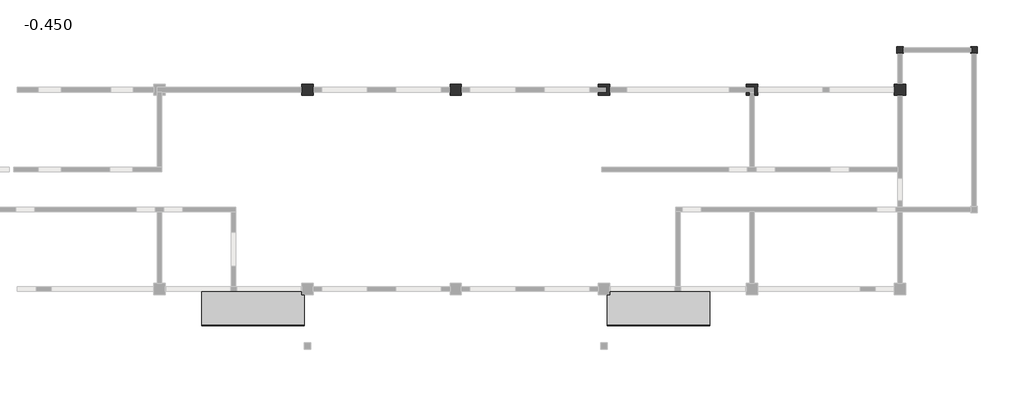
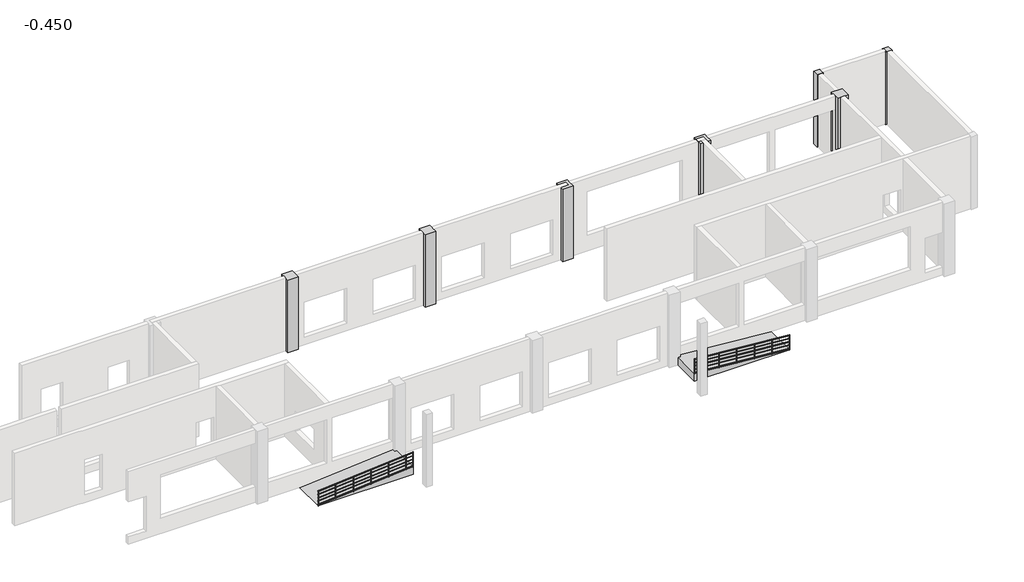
# One storey, part 2 of 2: 7 columns, 2 railings, 2 ramps.
"""IFC4 building model written with IfcOpenShell, lengths in millimetres."""

from ifc_helpers import new_model, si_unit, frame, origin, place, context, project, spatial, ellipse_curve, transform, mapped, element, save
from ifc_brep_helpers import plane_surface, cylinder_surface, advanced_brep
from components import z1_350mmx350mm_3cc50a67, z2_600mmx600mm_a56e41cd, z2_600mmx600mm_1a03ecea, ramp_fb5636dc, ramp_d582d0d9

model = new_model("IFC4")

# Units and contexts
model_context = context("Model", 3, world=origin())
ifc_project = project(units=[si_unit("LENGTHUNIT", "METRE", prefix="MILLI")], contexts=[model_context])

# Site, building, storey
site = spatial("IfcSite", under=ifc_project)
building = spatial("IfcBuilding", under=site)
storey = spatial("IfcBuildingStorey", under=building, Name="-0.450", Elevation=-450.0)

# Columns
placement = place(None, origin())
z1_350mmx350mm_shape = z1_350mmx350mm_3cc50a67(model_context)
element("IfcColumn", 1, ObjectType="混凝土 - 矩形 - 柱 : Z1-350mmX350mm", at=placement, inside=storey, context=model_context, shape_type="MappedRepresentation", body=[
    mapped(z1_350mmx350mm_shape, transform((47032.9890344, 7616.6095817, 0.0), x_axis=(-1.0, 0.0, 0.0), y_axis=(0.0, -1.0, 0.0), z_axis=(0.0, 0.0, 1.0))),
])
element("IfcColumn", 2, ObjectType="混凝土 - 矩形 - 柱 : Z1-350mmX350mm", at=placement, inside=storey, context=model_context, shape_type="MappedRepresentation", body=[
    mapped(z1_350mmx350mm_shape, transform((43132.9890344, 7616.6095817, 0.0), x_axis=(-1.0, 0.0, 0.0), y_axis=(0.0, -1.0, 0.0), z_axis=(0.0, 0.0, 1.0))),
])
z2_600mmx600mm_shape = z2_600mmx600mm_a56e41cd(model_context)
element("IfcColumn", 3, ObjectType="混凝土 - 矩形 - 柱 : Z2-600mmX600mm", at=placement, inside=storey, context=model_context, shape_type="MappedRepresentation", body=[
    mapped(z2_600mmx600mm_shape, transform((11932.9890344, 5516.6095817, 0.0), x_axis=(1.0, 0.0, 0.0), y_axis=(0.0, 1.0, 0.0), z_axis=(0.0, 0.0, 1.0))),
])
element("IfcColumn", 4, ObjectType="混凝土 - 矩形 - 柱 : Z2-600mmX600mm", at=placement, inside=storey, context=model_context, shape_type="MappedRepresentation", body=[
    mapped(z2_600mmx600mm_shape, transform((19732.9890344, 5516.6095817, 0.0), x_axis=(1.0, 0.0, 0.0), y_axis=(0.0, 1.0, 0.0), z_axis=(0.0, 0.0, 1.0))),
])
z2_600mmx600mm_2_shape = z2_600mmx600mm_1a03ecea(model_context)
element("IfcColumn", 5, ObjectType="混凝土 - 矩形 - 柱 : Z2-600mmX600mm", at=placement, inside=storey, context=model_context, shape_type="MappedRepresentation", body=[
    mapped(z2_600mmx600mm_2_shape, transform((43132.9890344, 5516.6095817, 0.0), x_axis=(-1.0, 0.0, 0.0), y_axis=(0.0, -1.0, 0.0), z_axis=(0.0, 0.0, 1.0))),
])
element("IfcColumn", 6, ObjectType="混凝土 - 矩形 - 柱 : Z2-600mmX600mm", at=placement, inside=storey, context=model_context, shape_type="MappedRepresentation", body=[
    mapped(z2_600mmx600mm_2_shape, transform((35332.9890344, 5516.6095817, 0.0), x_axis=(-1.0, 0.0, 0.0), y_axis=(0.0, -1.0, 0.0), z_axis=(0.0, 0.0, 1.0))),
])
element("IfcColumn", 7, ObjectType="混凝土 - 矩形 - 柱 : Z2-600mmX600mm", at=placement, inside=storey, context=model_context, shape_type="MappedRepresentation", body=[
    mapped(z2_600mmx600mm_2_shape, transform((27532.9890344, 5516.6095817, 0.0), x_axis=(-1.0, 0.0, 0.0), y_axis=(0.0, -1.0, 0.0), z_axis=(0.0, 0.0, 1.0))),
])

# Railings
element("IfcRailing", 8, ObjectType="900mm 圆管", at=placement, inside=storey, context=model_context, shape_type="AdvancedBrep", body=[
    advanced_brep(
    [(33111.3108536, -6883.3904183, 429.9306757), (33111.3108536, -6923.3904183, 429.9306757), (27711.3108536, -6883.3904183, 879.9306757), (27711.3108536, -6923.3904183, 879.9306757)],
    [
        (0, 1, ellipse_curve(frame((33111.3108536, -6903.3904183, 429.9306757), z_axis=(1.0, 0.0, 0.0), x_axis=(0.0, 0.0, -1.0)), 20.0693243, 20.0)),
        (1, 0, ellipse_curve(frame((33111.3108536, -6903.3904183, 429.9306757), z_axis=(1.0, 0.0, 0.0), x_axis=(0.0, 0.0, -1.0)), 20.0693243, 20.0)),
        (2, 3, ellipse_curve(frame((27711.3108536, -6903.3904183, 879.9306757), z_axis=(-1.0, 0.0, 0.0), x_axis=(0.0, 0.0, -1.0)), 20.0693243, 20.0)),
        (3, 2, ellipse_curve(frame((27711.3108536, -6903.3904183, 879.9306757), z_axis=(-1.0, 0.0, 0.0), x_axis=(0.0, 0.0, -1.0)), 20.0693243, 20.0)),
        (0, 2),
        (3, 1),
    ],
    [
        plane_surface(frame((33111.3108536, -6903.3904183, 450.0), z_axis=(1.0, 0.0, 0.0), x_axis=(0.0, -1.0, 0.0))),
        plane_surface(frame((27711.3108536, -6903.3904183, 900.0), z_axis=(-1.0, 0.0, 0.0), x_axis=(0.0, -1.0, 0.0))),
        cylinder_surface(frame((33109.649944, -6903.3904183, 430.0690848), z_axis=(0.9965457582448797, 0.0, -0.08304547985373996), x_axis=(0.0, -1.0, 0.0)), 20.0),
    ],
    [
        (0, [[1, 2]]),
        (1, [[3, 4]]),
        (2, [[-1, 5, -4, 6]]),
        (2, [[-2, -6, -3, -5]]),
    ],
),
    advanced_brep(
    [(33111.3108536, -6918.3904183, 234.9480068), (33111.3108536, -6888.3904183, 234.9480068), (27711.3108536, -6918.3904183, 684.9480068), (27711.3108536, -6888.3904183, 684.9480068)],
    [
        (0, 1, ellipse_curve(frame((33111.3108536, -6903.3904183, 234.9480068), z_axis=(1.0, 0.0, 0.0), x_axis=(0.0, 0.0, -1.0)), 15.0519932, 15.0)),
        (1, 0, ellipse_curve(frame((33111.3108536, -6903.3904183, 234.9480068), z_axis=(1.0, 0.0, 0.0), x_axis=(0.0, 0.0, -1.0)), 15.0519932, 15.0)),
        (2, 3, ellipse_curve(frame((27711.3108536, -6903.3904183, 684.9480068), z_axis=(-1.0, 0.0, 0.0), x_axis=(0.0, 0.0, -1.0)), 15.0519932, 15.0)),
        (3, 2, ellipse_curve(frame((27711.3108536, -6903.3904183, 684.9480068), z_axis=(-1.0, 0.0, 0.0), x_axis=(0.0, 0.0, -1.0)), 15.0519932, 15.0)),
        (0, 2),
        (3, 1),
    ],
    [
        plane_surface(frame((33111.3108536, -6903.3904183, 250.0), z_axis=(1.0, 0.0, 0.0), x_axis=(0.0, -1.0, 0.0))),
        plane_surface(frame((27711.3108536, -6903.3904183, 700.0), z_axis=(-1.0, 0.0, 0.0), x_axis=(0.0, -1.0, 0.0))),
        cylinder_surface(frame((33110.0651714, -6903.3904183, 235.0518136), z_axis=(0.9965457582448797, 0.0, -0.08304547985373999), x_axis=(0.0, 1.0, 0.0)), 15.0),
    ],
    [
        (0, [[1, 2]]),
        (1, [[3, 4]]),
        (2, [[-1, 5, -4, 6]]),
        (2, [[-2, -6, -3, -5]]),
    ],
),
    advanced_brep(
    [(33111.3108536, -6918.3904183, 34.9480068), (33111.3108536, -6888.3904183, 34.9480068), (27711.3108536, -6918.3904183, 484.9480068), (27711.3108536, -6888.3904183, 484.9480068)],
    [
        (0, 1, ellipse_curve(frame((33111.3108536, -6903.3904183, 34.9480068), z_axis=(1.0, 0.0, 0.0), x_axis=(0.0, 0.0, -0.9999999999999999)), 15.0519932, 15.0)),
        (1, 0, ellipse_curve(frame((33111.3108536, -6903.3904183, 34.9480068), z_axis=(1.0, 0.0, 0.0), x_axis=(0.0, 0.0, -0.9999999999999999)), 15.0519932, 15.0)),
        (2, 3, ellipse_curve(frame((27711.3108536, -6903.3904183, 484.9480068), z_axis=(-1.0, 0.0, 0.0), x_axis=(0.0, 0.0, -0.9999999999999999)), 15.0519932, 15.0)),
        (3, 2, ellipse_curve(frame((27711.3108536, -6903.3904183, 484.9480068), z_axis=(-1.0, 0.0, 0.0), x_axis=(0.0, 0.0, -0.9999999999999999)), 15.0519932, 15.0)),
        (0, 2),
        (3, 1),
    ],
    [
        plane_surface(frame((33111.3108536, -6903.3904183, 50.0), z_axis=(1.0, 0.0, 0.0), x_axis=(0.0, -1.0, 0.0))),
        plane_surface(frame((27711.3108536, -6903.3904183, 500.0), z_axis=(-1.0, 0.0, 0.0), x_axis=(0.0, -1.0, 0.0))),
        cylinder_surface(frame((33110.0651714, -6903.3904183, 35.0518136), z_axis=(0.9965457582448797, 0.0, -0.08304547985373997), x_axis=(0.0, 1.0, 0.0)), 15.0),
    ],
    [
        (0, [[1, 2]]),
        (1, [[3, 4]]),
        (2, [[-1, 5, -4, 6]]),
        (2, [[-2, -6, -3, -5]]),
    ],
),
    advanced_brep(
    [(33111.3108536, -6918.3904183, -165.0519932), (33111.3108536, -6888.3904183, -165.0519932), (27711.3108536, -6918.3904183, 284.9480068), (27711.3108536, -6888.3904183, 284.9480068)],
    [
        (0, 1, ellipse_curve(frame((33111.3108536, -6903.3904183, -165.0519932), z_axis=(1.0, 0.0, 0.0), x_axis=(0.0, 0.0, -0.9999999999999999)), 15.0519932, 15.0)),
        (1, 0, ellipse_curve(frame((33111.3108536, -6903.3904183, -165.0519932), z_axis=(1.0, 0.0, 0.0), x_axis=(0.0, 0.0, -0.9999999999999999)), 15.0519932, 15.0)),
        (2, 3, ellipse_curve(frame((27711.3108536, -6903.3904183, 284.9480068), z_axis=(-1.0, 0.0, 0.0), x_axis=(0.0, 0.0, -0.9999999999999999)), 15.0519932, 15.0)),
        (3, 2, ellipse_curve(frame((27711.3108536, -6903.3904183, 284.9480068), z_axis=(-1.0, 0.0, 0.0), x_axis=(0.0, 0.0, -0.9999999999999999)), 15.0519932, 15.0)),
        (0, 2),
        (3, 1),
    ],
    [
        plane_surface(frame((33111.3108536, -6903.3904183, -150.0), z_axis=(1.0, 0.0, 0.0), x_axis=(0.0, -1.0, 0.0))),
        plane_surface(frame((27711.3108536, -6903.3904183, 300.0), z_axis=(-1.0, 0.0, 0.0), x_axis=(0.0, -1.0, 0.0))),
        cylinder_surface(frame((33110.0651714, -6903.3904183, -164.9481864), z_axis=(0.9965457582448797, 0.0, -0.08304547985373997), x_axis=(0.0, 1.0, 0.0)), 15.0),
    ],
    [
        (0, [[1, 2]]),
        (1, [[3, 4]]),
        (2, [[-1, 5, -4, 6]]),
        (2, [[-2, -6, -3, -5]]),
    ],
),
    advanced_brep(
    [(33111.3108536, -6918.3904183, -365.0519932), (33111.3108536, -6888.3904183, -365.0519932), (27711.3108536, -6918.3904183, 84.9480068), (27711.3108536, -6888.3904183, 84.9480068)],
    [
        (0, 1, ellipse_curve(frame((33111.3108536, -6903.3904183, -365.0519932), z_axis=(1.0, 0.0, 0.0), x_axis=(0.0, 0.0, -0.9999999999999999)), 15.0519932, 15.0)),
        (1, 0, ellipse_curve(frame((33111.3108536, -6903.3904183, -365.0519932), z_axis=(1.0, 0.0, 0.0), x_axis=(0.0, 0.0, -0.9999999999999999)), 15.0519932, 15.0)),
        (2, 3, ellipse_curve(frame((27711.3108536, -6903.3904183, 84.9480068), z_axis=(-1.0, 0.0, 0.0), x_axis=(0.0, 0.0, -0.9999999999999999)), 15.0519932, 15.0)),
        (3, 2, ellipse_curve(frame((27711.3108536, -6903.3904183, 84.9480068), z_axis=(-1.0, 0.0, 0.0), x_axis=(0.0, 0.0, -0.9999999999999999)), 15.0519932, 15.0)),
        (0, 2),
        (3, 1),
    ],
    [
        plane_surface(frame((33111.3108536, -6903.3904183, -350.0), z_axis=(1.0, 0.0, 0.0), x_axis=(0.0, -1.0, 0.0))),
        plane_surface(frame((27711.3108536, -6903.3904183, 100.0), z_axis=(-1.0, 0.0, 0.0), x_axis=(0.0, -1.0, 0.0))),
        cylinder_surface(frame((33110.0651714, -6903.3904183, -364.9481864), z_axis=(0.9965457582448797, 0.0, -0.08304547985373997), x_axis=(0.0, 1.0, 0.0)), 15.0),
    ],
    [
        (0, [[1, 2]]),
        (1, [[3, 4]]),
        (2, [[-1, 5, -4, 6]]),
        (2, [[-2, -6, -3, -5]]),
    ],
),
    advanced_brep(
    [(28111.3108536, -6890.8904183, 826.5280181), (28111.3108536, -6890.8904183, -33.3333333), (28111.3108536, -6915.8904183, -33.3333333), (28111.3108536, -6915.8904183, 826.5280181)],
    [
        (0, 1),
        (1, 2, ellipse_curve(frame((28111.3108536, -6903.3904183, -33.3333333), z_axis=(0.08304547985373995, 0.0, 0.9965457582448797), x_axis=(-0.9965457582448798, 0.0, 0.08304547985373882)), 12.5433277, 12.5)),
        (2, 3),
        (3, 0, ellipse_curve(frame((28111.3108536, -6903.3904183, 826.5280181), z_axis=(-0.08304547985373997, 0.0, -0.9965457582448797), x_axis=(-0.9965457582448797, 0.0, 0.0830454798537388)), 12.5433277, 12.5)),
        (0, 3, ellipse_curve(frame((28111.3108536, -6903.3904183, 826.5280181), z_axis=(-0.08304547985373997, 0.0, -0.9965457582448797), x_axis=(-0.9965457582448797, 0.0, 0.0830454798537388)), 12.5433277, 12.5)),
        (2, 1, ellipse_curve(frame((28111.3108536, -6903.3904183, -33.3333333), z_axis=(0.08304547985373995, 0.0, 0.9965457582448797), x_axis=(-0.9965457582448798, 0.0, 0.08304547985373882)), 12.5433277, 12.5)),
    ],
    [
        cylinder_surface(frame((28111.3108536, -6903.3904183, -133.3333333), z_axis=(0.0, 0.0, 1.0), x_axis=(0.0, -1.0, 0.0)), 12.5),
        plane_surface(frame((28086.3108536, -6928.3904183, 828.6113514), z_axis=(0.08304547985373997, 0.0, 0.9965457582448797), x_axis=(0.0, 1.0, 0.0))),
        plane_surface(frame((28136.3108536, -6928.3904183, -35.4166667), z_axis=(-0.08304547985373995, 0.0, -0.9965457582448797), x_axis=(0.0, 1.0, 0.0))),
    ],
    [
        (0, [[1, 2, 3, 4]]),
        (0, [[-1, 5, -3, 6]]),
        (1, [[-4, -5]]),
        (2, [[-2, -6]]),
    ],
),
    advanced_brep(
    [(29111.3108536, -6890.8904183, 743.1946847), (29111.3108536, -6890.8904183, -116.6666667), (29111.3108536, -6915.8904183, -116.6666667), (29111.3108536, -6915.8904183, 743.1946847)],
    [
        (0, 1),
        (1, 2, ellipse_curve(frame((29111.3108536, -6903.3904183, -116.6666667), z_axis=(0.08304547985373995, 0.0, 0.9965457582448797), x_axis=(-0.9965457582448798, 0.0, 0.08304547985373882)), 12.5433277, 12.5)),
        (2, 3),
        (3, 0, ellipse_curve(frame((29111.3108536, -6903.3904183, 743.1946847), z_axis=(-0.08304547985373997, 0.0, -0.9965457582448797), x_axis=(-0.9965457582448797, 0.0, 0.0830454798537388)), 12.5433277, 12.5)),
        (0, 3, ellipse_curve(frame((29111.3108536, -6903.3904183, 743.1946847), z_axis=(-0.08304547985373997, 0.0, -0.9965457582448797), x_axis=(-0.9965457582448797, 0.0, 0.0830454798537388)), 12.5433277, 12.5)),
        (2, 1, ellipse_curve(frame((29111.3108536, -6903.3904183, -116.6666667), z_axis=(0.08304547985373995, 0.0, 0.9965457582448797), x_axis=(-0.9965457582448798, 0.0, 0.08304547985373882)), 12.5433277, 12.5)),
    ],
    [
        cylinder_surface(frame((29111.3108536, -6903.3904183, -216.6666667), z_axis=(0.0, 0.0, 1.0), x_axis=(0.0, -1.0, 0.0)), 12.5),
        plane_surface(frame((29086.3108536, -6928.3904183, 745.2780181), z_axis=(0.08304547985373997, 0.0, 0.9965457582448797), x_axis=(0.0, 1.0, 0.0))),
        plane_surface(frame((29136.3108536, -6928.3904183, -118.75), z_axis=(-0.08304547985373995, 0.0, -0.9965457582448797), x_axis=(0.0, 1.0, 0.0))),
    ],
    [
        (0, [[1, 2, 3, 4]]),
        (0, [[-1, 5, -3, 6]]),
        (1, [[-4, -5]]),
        (2, [[-2, -6]]),
    ],
),
    advanced_brep(
    [(30111.3108536, -6890.8904183, 659.8613514), (30111.3108536, -6890.8904183, -200.0), (30111.3108536, -6915.8904183, -200.0), (30111.3108536, -6915.8904183, 659.8613514)],
    [
        (0, 1),
        (1, 2, ellipse_curve(frame((30111.3108536, -6903.3904183, -200.0), z_axis=(0.08304547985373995, 0.0, 0.9965457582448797), x_axis=(-0.9965457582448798, 0.0, 0.08304547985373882)), 12.5433277, 12.5)),
        (2, 3),
        (3, 0, ellipse_curve(frame((30111.3108536, -6903.3904183, 659.8613514), z_axis=(-0.08304547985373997, 0.0, -0.9965457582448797), x_axis=(-0.9965457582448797, 0.0, 0.0830454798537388)), 12.5433277, 12.5)),
        (0, 3, ellipse_curve(frame((30111.3108536, -6903.3904183, 659.8613514), z_axis=(-0.08304547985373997, 0.0, -0.9965457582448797), x_axis=(-0.9965457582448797, 0.0, 0.0830454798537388)), 12.5433277, 12.5)),
        (2, 1, ellipse_curve(frame((30111.3108536, -6903.3904183, -200.0), z_axis=(0.08304547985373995, 0.0, 0.9965457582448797), x_axis=(-0.9965457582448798, 0.0, 0.08304547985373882)), 12.5433277, 12.5)),
    ],
    [
        cylinder_surface(frame((30111.3108536, -6903.3904183, -300.0), z_axis=(0.0, 0.0, 1.0), x_axis=(0.0, -1.0, 0.0)), 12.5),
        plane_surface(frame((30086.3108536, -6928.3904183, 661.9446847), z_axis=(0.08304547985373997, 0.0, 0.9965457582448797), x_axis=(0.0, 1.0, 0.0))),
        plane_surface(frame((30136.3108536, -6928.3904183, -202.0833333), z_axis=(-0.08304547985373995, 0.0, -0.9965457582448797), x_axis=(0.0, 1.0, 0.0))),
    ],
    [
        (0, [[1, 2, 3, 4]]),
        (0, [[-1, 5, -3, 6]]),
        (1, [[-4, -5]]),
        (2, [[-2, -6]]),
    ],
),
    advanced_brep(
    [(31111.3108536, -6890.8904183, 576.5280181), (31111.3108536, -6890.8904183, -283.3333333), (31111.3108536, -6915.8904183, -283.3333333), (31111.3108536, -6915.8904183, 576.5280181)],
    [
        (0, 1),
        (1, 2, ellipse_curve(frame((31111.3108536, -6903.3904183, -283.3333333), z_axis=(0.08304547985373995, 0.0, 0.9965457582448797), x_axis=(-0.9965457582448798, 0.0, 0.08304547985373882)), 12.5433277, 12.5)),
        (2, 3),
        (3, 0, ellipse_curve(frame((31111.3108536, -6903.3904183, 576.5280181), z_axis=(-0.08304547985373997, 0.0, -0.9965457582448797), x_axis=(-0.9965457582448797, 0.0, 0.0830454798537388)), 12.5433277, 12.5)),
        (0, 3, ellipse_curve(frame((31111.3108536, -6903.3904183, 576.5280181), z_axis=(-0.08304547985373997, 0.0, -0.9965457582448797), x_axis=(-0.9965457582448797, 0.0, 0.0830454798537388)), 12.5433277, 12.5)),
        (2, 1, ellipse_curve(frame((31111.3108536, -6903.3904183, -283.3333333), z_axis=(0.08304547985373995, 0.0, 0.9965457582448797), x_axis=(-0.9965457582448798, 0.0, 0.08304547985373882)), 12.5433277, 12.5)),
    ],
    [
        cylinder_surface(frame((31111.3108536, -6903.3904183, -383.3333333), z_axis=(0.0, 0.0, 1.0), x_axis=(0.0, -1.0, 0.0)), 12.5),
        plane_surface(frame((31086.3108536, -6928.3904183, 578.6113514), z_axis=(0.08304547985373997, 0.0, 0.9965457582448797), x_axis=(0.0, 1.0, 0.0))),
        plane_surface(frame((31136.3108536, -6928.3904183, -285.4166667), z_axis=(-0.08304547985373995, 0.0, -0.9965457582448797), x_axis=(0.0, 1.0, 0.0))),
    ],
    [
        (0, [[1, 2, 3, 4]]),
        (0, [[-1, 5, -3, 6]]),
        (1, [[-4, -5]]),
        (2, [[-2, -6]]),
    ],
),
    advanced_brep(
    [(32111.3108536, -6890.8904183, 493.1946847), (32111.3108536, -6890.8904183, -366.6666667), (32111.3108536, -6915.8904183, -366.6666667), (32111.3108536, -6915.8904183, 493.1946847)],
    [
        (0, 1),
        (1, 2, ellipse_curve(frame((32111.3108536, -6903.3904183, -366.6666667), z_axis=(0.08304547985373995, 0.0, 0.9965457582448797), x_axis=(-0.9965457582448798, 0.0, 0.08304547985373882)), 12.5433277, 12.5)),
        (2, 3),
        (3, 0, ellipse_curve(frame((32111.3108536, -6903.3904183, 493.1946847), z_axis=(-0.08304547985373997, 0.0, -0.9965457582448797), x_axis=(-0.9965457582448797, 0.0, 0.0830454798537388)), 12.5433277, 12.5)),
        (0, 3, ellipse_curve(frame((32111.3108536, -6903.3904183, 493.1946847), z_axis=(-0.08304547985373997, 0.0, -0.9965457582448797), x_axis=(-0.9965457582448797, 0.0, 0.0830454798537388)), 12.5433277, 12.5)),
        (2, 1, ellipse_curve(frame((32111.3108536, -6903.3904183, -366.6666667), z_axis=(0.08304547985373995, 0.0, 0.9965457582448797), x_axis=(-0.9965457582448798, 0.0, 0.08304547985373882)), 12.5433277, 12.5)),
    ],
    [
        cylinder_surface(frame((32111.3108536, -6903.3904183, -466.6666667), z_axis=(0.0, 0.0, 1.0), x_axis=(0.0, -1.0, 0.0)), 12.5),
        plane_surface(frame((32086.3108536, -6928.3904183, 495.2780181), z_axis=(0.08304547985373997, 0.0, 0.9965457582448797), x_axis=(0.0, 1.0, 0.0))),
        plane_surface(frame((32136.3108536, -6928.3904183, -368.75), z_axis=(-0.08304547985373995, 0.0, -0.9965457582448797), x_axis=(0.0, 1.0, 0.0))),
    ],
    [
        (0, [[1, 2, 3, 4]]),
        (0, [[-1, 5, -3, 6]]),
        (1, [[-4, -5]]),
        (2, [[-2, -6]]),
    ],
),
    advanced_brep(
    [(27723.8108536, -6890.8904183, 858.8196847), (27723.8108536, -6890.8904183, -1.0416667), (27723.8108536, -6915.8904183, -1.0416667), (27723.8108536, -6915.8904183, 858.8196847)],
    [
        (0, 1),
        (1, 2, ellipse_curve(frame((27723.8108536, -6903.3904183, -1.0416667), z_axis=(0.08304547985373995, 0.0, 0.9965457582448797), x_axis=(-0.9965457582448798, 0.0, 0.08304547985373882)), 12.5433277, 12.5)),
        (2, 3),
        (3, 0, ellipse_curve(frame((27723.8108536, -6903.3904183, 858.8196847), z_axis=(-0.08304547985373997, 0.0, -0.9965457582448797), x_axis=(-0.9965457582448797, 0.0, 0.0830454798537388)), 12.5433277, 12.5)),
        (0, 3, ellipse_curve(frame((27723.8108536, -6903.3904183, 858.8196847), z_axis=(-0.08304547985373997, 0.0, -0.9965457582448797), x_axis=(-0.9965457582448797, 0.0, 0.0830454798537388)), 12.5433277, 12.5)),
        (2, 1, ellipse_curve(frame((27723.8108536, -6903.3904183, -1.0416667), z_axis=(0.08304547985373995, 0.0, 0.9965457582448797), x_axis=(-0.9965457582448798, 0.0, 0.08304547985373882)), 12.5433277, 12.5)),
    ],
    [
        cylinder_surface(frame((27723.8108536, -6903.3904183, -101.0416667), z_axis=(0.0, 0.0, 1.0), x_axis=(0.0, -1.0, 0.0)), 12.5),
        plane_surface(frame((27698.8108536, -6928.3904183, 860.9030181), z_axis=(0.08304547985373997, 0.0, 0.9965457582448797), x_axis=(0.0, 1.0, 0.0))),
        plane_surface(frame((27748.8108536, -6928.3904183, -3.125), z_axis=(-0.08304547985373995, 0.0, -0.9965457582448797), x_axis=(0.0, 1.0, 0.0))),
    ],
    [
        (0, [[1, 2, 3, 4]]),
        (0, [[-1, 5, -3, 6]]),
        (1, [[-4, -5]]),
        (2, [[-2, -6]]),
    ],
),
    advanced_brep(
    [(33098.8108536, -6890.8904183, 410.9030181), (33098.8108536, -6890.8904183, -448.9583333), (33098.8108536, -6915.8904183, -448.9583333), (33098.8108536, -6915.8904183, 410.9030181)],
    [
        (0, 1),
        (1, 2, ellipse_curve(frame((33098.8108536, -6903.3904183, -448.9583333), z_axis=(0.08304547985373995, 0.0, 0.9965457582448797), x_axis=(-0.9965457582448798, 0.0, 0.08304547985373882)), 12.5433277, 12.5)),
        (2, 3),
        (3, 0, ellipse_curve(frame((33098.8108536, -6903.3904183, 410.9030181), z_axis=(-0.08304547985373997, 0.0, -0.9965457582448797), x_axis=(-0.9965457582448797, 0.0, 0.0830454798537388)), 12.5433277, 12.5)),
        (0, 3, ellipse_curve(frame((33098.8108536, -6903.3904183, 410.9030181), z_axis=(-0.08304547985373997, 0.0, -0.9965457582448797), x_axis=(-0.9965457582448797, 0.0, 0.0830454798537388)), 12.5433277, 12.5)),
        (2, 1, ellipse_curve(frame((33098.8108536, -6903.3904183, -448.9583333), z_axis=(0.08304547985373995, 0.0, 0.9965457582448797), x_axis=(-0.9965457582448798, 0.0, 0.08304547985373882)), 12.5433277, 12.5)),
    ],
    [
        cylinder_surface(frame((33098.8108536, -6903.3904183, -548.9583333), z_axis=(0.0, 0.0, 1.0), x_axis=(0.0, -1.0, 0.0)), 12.5),
        plane_surface(frame((33073.8108536, -6928.3904183, 412.9863514), z_axis=(0.08304547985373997, 0.0, 0.9965457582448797), x_axis=(0.0, 1.0, 0.0))),
        plane_surface(frame((33123.8108536, -6928.3904183, -451.0416667), z_axis=(-0.08304547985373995, 0.0, -0.9965457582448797), x_axis=(0.0, 1.0, 0.0))),
    ],
    [
        (0, [[1, 2, 3, 4]]),
        (0, [[-1, 5, -3, 6]]),
        (1, [[-4, -5]]),
        (2, [[-2, -6]]),
    ],
),
])
element("IfcRailing", 9, ObjectType="900mm 圆管", at=placement, inside=storey, context=model_context, shape_type="AdvancedBrep", body=[
    advanced_brep(
    [(6354.6672152, -6923.3904183, 429.9306757), (6354.6672152, -6883.3904183, 429.9306757), (11754.6672152, -6923.3904183, 879.9306757), (11754.6672152, -6883.3904183, 879.9306757)],
    [
        (0, 1, ellipse_curve(frame((6354.6672152, -6903.3904183, 429.9306757), z_axis=(-1.0, 0.0, 0.0), x_axis=(0.0, 0.0, -1.0)), 20.0693243, 20.0)),
        (1, 0, ellipse_curve(frame((6354.6672152, -6903.3904183, 429.9306757), z_axis=(-1.0, 0.0, 0.0), x_axis=(0.0, 0.0, -1.0)), 20.0693243, 20.0)),
        (2, 3, ellipse_curve(frame((11754.6672152, -6903.3904183, 879.9306757), z_axis=(1.0, 0.0, 0.0), x_axis=(0.0, 0.0, -1.0)), 20.0693243, 20.0)),
        (3, 2, ellipse_curve(frame((11754.6672152, -6903.3904183, 879.9306757), z_axis=(1.0, 0.0, 0.0), x_axis=(0.0, 0.0, -1.0)), 20.0693243, 20.0)),
        (0, 2),
        (3, 1),
    ],
    [
        plane_surface(frame((6354.6672152, -6903.3904183, 450.0), z_axis=(-1.0, 0.0, 0.0), x_axis=(0.0, 1.0, 0.0))),
        plane_surface(frame((11754.6672152, -6903.3904183, 900.0), z_axis=(1.0, 0.0, 0.0), x_axis=(0.0, 1.0, 0.0))),
        cylinder_surface(frame((6356.3281248, -6903.3904183, 430.0690848), z_axis=(-0.9965457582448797, 0.0, -0.08304547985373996), x_axis=(0.0, 1.0, 0.0)), 20.0),
    ],
    [
        (0, [[1, 2]]),
        (1, [[3, 4]]),
        (2, [[-1, 5, -4, 6]]),
        (2, [[-2, -6, -3, -5]]),
    ],
),
    advanced_brep(
    [(6354.6672152, -6918.3904183, 234.9480068), (6354.6672152, -6888.3904183, 234.9480068), (11754.6672152, -6918.3904183, 684.9480068), (11754.6672152, -6888.3904183, 684.9480068)],
    [
        (0, 1, ellipse_curve(frame((6354.6672152, -6903.3904183, 234.9480068), z_axis=(-1.0, 0.0, 0.0), x_axis=(0.0, 0.0, -1.0)), 15.0519932, 15.0)),
        (1, 0, ellipse_curve(frame((6354.6672152, -6903.3904183, 234.9480068), z_axis=(-1.0, 0.0, 0.0), x_axis=(0.0, 0.0, -1.0)), 15.0519932, 15.0)),
        (2, 3, ellipse_curve(frame((11754.6672152, -6903.3904183, 684.9480068), z_axis=(1.0, 0.0, 0.0), x_axis=(0.0, 0.0, -1.0)), 15.0519932, 15.0)),
        (3, 2, ellipse_curve(frame((11754.6672152, -6903.3904183, 684.9480068), z_axis=(1.0, 0.0, 0.0), x_axis=(0.0, 0.0, -1.0)), 15.0519932, 15.0)),
        (1, 3),
        (2, 0),
    ],
    [
        plane_surface(frame((6354.6672152, -6903.3904183, 250.0), z_axis=(-1.0, 0.0, 0.0), x_axis=(0.0, 1.0, 0.0))),
        plane_surface(frame((11754.6672152, -6903.3904183, 700.0), z_axis=(1.0, 0.0, 0.0), x_axis=(0.0, 1.0, 0.0))),
        cylinder_surface(frame((6355.9128974, -6903.3904183, 235.0518136), z_axis=(-0.9965457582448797, 0.0, -0.08304547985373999), x_axis=(0.0, 1.0, 0.0)), 15.0),
    ],
    [
        (0, [[1, 2]]),
        (1, [[3, 4]]),
        (2, [[-2, 5, -3, 6]]),
        (2, [[-1, -6, -4, -5]]),
    ],
),
    advanced_brep(
    [(6354.6672152, -6918.3904183, 34.9480068), (6354.6672152, -6888.3904183, 34.9480068), (11754.6672152, -6918.3904183, 484.9480068), (11754.6672152, -6888.3904183, 484.9480068)],
    [
        (0, 1, ellipse_curve(frame((6354.6672152, -6903.3904183, 34.9480068), z_axis=(-1.0, 0.0, 0.0), x_axis=(0.0, 0.0, -0.9999999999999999)), 15.0519932, 15.0)),
        (1, 0, ellipse_curve(frame((6354.6672152, -6903.3904183, 34.9480068), z_axis=(-1.0, 0.0, 0.0), x_axis=(0.0, 0.0, -0.9999999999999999)), 15.0519932, 15.0)),
        (2, 3, ellipse_curve(frame((11754.6672152, -6903.3904183, 484.9480068), z_axis=(1.0, 0.0, 0.0), x_axis=(0.0, 0.0, -0.9999999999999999)), 15.0519932, 15.0)),
        (3, 2, ellipse_curve(frame((11754.6672152, -6903.3904183, 484.9480068), z_axis=(1.0, 0.0, 0.0), x_axis=(0.0, 0.0, -0.9999999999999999)), 15.0519932, 15.0)),
        (1, 3),
        (2, 0),
    ],
    [
        plane_surface(frame((6354.6672152, -6903.3904183, 50.0), z_axis=(-1.0, 0.0, 0.0), x_axis=(0.0, 1.0, 0.0))),
        plane_surface(frame((11754.6672152, -6903.3904183, 500.0), z_axis=(1.0, 0.0, 0.0), x_axis=(0.0, 1.0, 0.0))),
        cylinder_surface(frame((6355.9128974, -6903.3904183, 35.0518136), z_axis=(-0.9965457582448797, 0.0, -0.08304547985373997), x_axis=(0.0, 1.0, 0.0)), 15.0),
    ],
    [
        (0, [[1, 2]]),
        (1, [[3, 4]]),
        (2, [[-2, 5, -3, 6]]),
        (2, [[-1, -6, -4, -5]]),
    ],
),
    advanced_brep(
    [(6354.6672152, -6918.3904183, -165.0519932), (6354.6672152, -6888.3904183, -165.0519932), (11754.6672152, -6918.3904183, 284.9480068), (11754.6672152, -6888.3904183, 284.9480068)],
    [
        (0, 1, ellipse_curve(frame((6354.6672152, -6903.3904183, -165.0519932), z_axis=(-1.0, 0.0, 0.0), x_axis=(0.0, 0.0, -0.9999999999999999)), 15.0519932, 15.0)),
        (1, 0, ellipse_curve(frame((6354.6672152, -6903.3904183, -165.0519932), z_axis=(-1.0, 0.0, 0.0), x_axis=(0.0, 0.0, -0.9999999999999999)), 15.0519932, 15.0)),
        (2, 3, ellipse_curve(frame((11754.6672152, -6903.3904183, 284.9480068), z_axis=(1.0, 0.0, 0.0), x_axis=(0.0, 0.0, -0.9999999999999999)), 15.0519932, 15.0)),
        (3, 2, ellipse_curve(frame((11754.6672152, -6903.3904183, 284.9480068), z_axis=(1.0, 0.0, 0.0), x_axis=(0.0, 0.0, -0.9999999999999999)), 15.0519932, 15.0)),
        (1, 3),
        (2, 0),
    ],
    [
        plane_surface(frame((6354.6672152, -6903.3904183, -150.0), z_axis=(-1.0, 0.0, 0.0), x_axis=(0.0, 1.0, 0.0))),
        plane_surface(frame((11754.6672152, -6903.3904183, 300.0), z_axis=(1.0, 0.0, 0.0), x_axis=(0.0, 1.0, 0.0))),
        cylinder_surface(frame((6355.9128974, -6903.3904183, -164.9481864), z_axis=(-0.9965457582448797, 0.0, -0.08304547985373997), x_axis=(0.0, 1.0, 0.0)), 15.0),
    ],
    [
        (0, [[1, 2]]),
        (1, [[3, 4]]),
        (2, [[-2, 5, -3, 6]]),
        (2, [[-1, -6, -4, -5]]),
    ],
),
    advanced_brep(
    [(6354.6672152, -6918.3904183, -365.0519932), (6354.6672152, -6888.3904183, -365.0519932), (11754.6672152, -6918.3904183, 84.9480068), (11754.6672152, -6888.3904183, 84.9480068)],
    [
        (0, 1, ellipse_curve(frame((6354.6672152, -6903.3904183, -365.0519932), z_axis=(-1.0, 0.0, 0.0), x_axis=(0.0, 0.0, -0.9999999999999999)), 15.0519932, 15.0)),
        (1, 0, ellipse_curve(frame((6354.6672152, -6903.3904183, -365.0519932), z_axis=(-1.0, 0.0, 0.0), x_axis=(0.0, 0.0, -0.9999999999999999)), 15.0519932, 15.0)),
        (2, 3, ellipse_curve(frame((11754.6672152, -6903.3904183, 84.9480068), z_axis=(1.0, 0.0, 0.0), x_axis=(0.0, 0.0, -0.9999999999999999)), 15.0519932, 15.0)),
        (3, 2, ellipse_curve(frame((11754.6672152, -6903.3904183, 84.9480068), z_axis=(1.0, 0.0, 0.0), x_axis=(0.0, 0.0, -0.9999999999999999)), 15.0519932, 15.0)),
        (1, 3),
        (2, 0),
    ],
    [
        plane_surface(frame((6354.6672152, -6903.3904183, -350.0), z_axis=(-1.0, 0.0, 0.0), x_axis=(0.0, 1.0, 0.0))),
        plane_surface(frame((11754.6672152, -6903.3904183, 100.0), z_axis=(1.0, 0.0, 0.0), x_axis=(0.0, 1.0, 0.0))),
        cylinder_surface(frame((6355.9128974, -6903.3904183, -364.9481864), z_axis=(-0.9965457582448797, 0.0, -0.08304547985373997), x_axis=(0.0, 1.0, 0.0)), 15.0),
    ],
    [
        (0, [[1, 2]]),
        (1, [[3, 4]]),
        (2, [[-2, 5, -3, 6]]),
        (2, [[-1, -6, -4, -5]]),
    ],
),
    advanced_brep(
    [(11354.6672152, -6890.8904183, 826.5280181), (11354.6672152, -6915.8904183, 826.5280181), (11354.6672152, -6915.8904183, -33.3333333), (11354.6672152, -6890.8904183, -33.3333333)],
    [
        (0, 1, ellipse_curve(frame((11354.6672152, -6903.3904183, 826.5280181), z_axis=(0.08304547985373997, 0.0, -0.9965457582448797), x_axis=(0.9965457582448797, 0.0, 0.0830454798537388)), 12.5433277, 12.5)),
        (1, 2),
        (2, 3, ellipse_curve(frame((11354.6672152, -6903.3904183, -33.3333333), z_axis=(-0.08304547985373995, 0.0, 0.9965457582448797), x_axis=(0.9965457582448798, 0.0, 0.08304547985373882)), 12.5433277, 12.5)),
        (3, 0),
        (3, 2, ellipse_curve(frame((11354.6672152, -6903.3904183, -33.3333333), z_axis=(-0.08304547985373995, 0.0, 0.9965457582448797), x_axis=(0.9965457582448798, 0.0, 0.08304547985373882)), 12.5433277, 12.5)),
        (1, 0, ellipse_curve(frame((11354.6672152, -6903.3904183, 826.5280181), z_axis=(0.08304547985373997, 0.0, -0.9965457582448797), x_axis=(0.9965457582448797, 0.0, 0.0830454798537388)), 12.5433277, 12.5)),
    ],
    [
        cylinder_surface(frame((11354.6672152, -6903.3904183, -133.3333333), z_axis=(0.0, 0.0, 1.0), x_axis=(0.0, -1.0, 0.0)), 12.5),
        plane_surface(frame((11379.6672152, -6928.3904183, 828.6113514), z_axis=(-0.08304547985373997, 0.0, 0.9965457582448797), x_axis=(0.0, 1.0, 0.0))),
        plane_surface(frame((11329.6672152, -6928.3904183, -35.4166667), z_axis=(0.08304547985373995, 0.0, -0.9965457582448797), x_axis=(0.0, 1.0, 0.0))),
    ],
    [
        (0, [[1, 2, 3, 4]]),
        (0, [[5, -2, 6, -4]]),
        (1, [[-6, -1]]),
        (2, [[-5, -3]]),
    ],
),
    advanced_brep(
    [(10354.6672152, -6890.8904183, 743.1946847), (10354.6672152, -6915.8904183, 743.1946847), (10354.6672152, -6915.8904183, -116.6666667), (10354.6672152, -6890.8904183, -116.6666667)],
    [
        (0, 1, ellipse_curve(frame((10354.6672152, -6903.3904183, 743.1946847), z_axis=(0.08304547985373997, 0.0, -0.9965457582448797), x_axis=(0.9965457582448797, 0.0, 0.0830454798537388)), 12.5433277, 12.5)),
        (1, 2),
        (2, 3, ellipse_curve(frame((10354.6672152, -6903.3904183, -116.6666667), z_axis=(-0.08304547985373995, 0.0, 0.9965457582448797), x_axis=(0.9965457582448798, 0.0, 0.08304547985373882)), 12.5433277, 12.5)),
        (3, 0),
        (3, 2, ellipse_curve(frame((10354.6672152, -6903.3904183, -116.6666667), z_axis=(-0.08304547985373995, 0.0, 0.9965457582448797), x_axis=(0.9965457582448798, 0.0, 0.08304547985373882)), 12.5433277, 12.5)),
        (1, 0, ellipse_curve(frame((10354.6672152, -6903.3904183, 743.1946847), z_axis=(0.08304547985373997, 0.0, -0.9965457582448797), x_axis=(0.9965457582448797, 0.0, 0.0830454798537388)), 12.5433277, 12.5)),
    ],
    [
        cylinder_surface(frame((10354.6672152, -6903.3904183, -216.6666667), z_axis=(0.0, 0.0, 1.0), x_axis=(0.0, -1.0, 0.0)), 12.5),
        plane_surface(frame((10379.6672152, -6928.3904183, 745.2780181), z_axis=(-0.08304547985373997, 0.0, 0.9965457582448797), x_axis=(0.0, 1.0, 0.0))),
        plane_surface(frame((10329.6672152, -6928.3904183, -118.75), z_axis=(0.08304547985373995, 0.0, -0.9965457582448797), x_axis=(0.0, 1.0, 0.0))),
    ],
    [
        (0, [[1, 2, 3, 4]]),
        (0, [[5, -2, 6, -4]]),
        (1, [[-6, -1]]),
        (2, [[-5, -3]]),
    ],
),
    advanced_brep(
    [(9354.6672152, -6890.8904183, 659.8613514), (9354.6672152, -6915.8904183, 659.8613514), (9354.6672152, -6915.8904183, -200.0), (9354.6672152, -6890.8904183, -200.0)],
    [
        (0, 1, ellipse_curve(frame((9354.6672152, -6903.3904183, 659.8613514), z_axis=(0.08304547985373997, 0.0, -0.9965457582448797), x_axis=(0.9965457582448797, 0.0, 0.0830454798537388)), 12.5433277, 12.5)),
        (1, 2),
        (2, 3, ellipse_curve(frame((9354.6672152, -6903.3904183, -200.0), z_axis=(-0.08304547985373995, 0.0, 0.9965457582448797), x_axis=(0.9965457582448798, 0.0, 0.08304547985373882)), 12.5433277, 12.5)),
        (3, 0),
        (3, 2, ellipse_curve(frame((9354.6672152, -6903.3904183, -200.0), z_axis=(-0.08304547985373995, 0.0, 0.9965457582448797), x_axis=(0.9965457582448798, 0.0, 0.08304547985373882)), 12.5433277, 12.5)),
        (1, 0, ellipse_curve(frame((9354.6672152, -6903.3904183, 659.8613514), z_axis=(0.08304547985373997, 0.0, -0.9965457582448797), x_axis=(0.9965457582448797, 0.0, 0.0830454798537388)), 12.5433277, 12.5)),
    ],
    [
        cylinder_surface(frame((9354.6672152, -6903.3904183, -300.0), z_axis=(0.0, 0.0, 1.0), x_axis=(0.0, -1.0, 0.0)), 12.5),
        plane_surface(frame((9379.6672152, -6928.3904183, 661.9446847), z_axis=(-0.08304547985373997, 0.0, 0.9965457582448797), x_axis=(0.0, 1.0, 0.0))),
        plane_surface(frame((9329.6672152, -6928.3904183, -202.0833333), z_axis=(0.08304547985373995, 0.0, -0.9965457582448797), x_axis=(0.0, 1.0, 0.0))),
    ],
    [
        (0, [[1, 2, 3, 4]]),
        (0, [[5, -2, 6, -4]]),
        (1, [[-6, -1]]),
        (2, [[-5, -3]]),
    ],
),
    advanced_brep(
    [(8354.6672152, -6890.8904183, 576.5280181), (8354.6672152, -6915.8904183, 576.5280181), (8354.6672152, -6915.8904183, -283.3333333), (8354.6672152, -6890.8904183, -283.3333333)],
    [
        (0, 1, ellipse_curve(frame((8354.6672152, -6903.3904183, 576.5280181), z_axis=(0.08304547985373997, 0.0, -0.9965457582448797), x_axis=(0.9965457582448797, 0.0, 0.0830454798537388)), 12.5433277, 12.5)),
        (1, 2),
        (2, 3, ellipse_curve(frame((8354.6672152, -6903.3904183, -283.3333333), z_axis=(-0.08304547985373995, 0.0, 0.9965457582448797), x_axis=(0.9965457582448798, 0.0, 0.08304547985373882)), 12.5433277, 12.5)),
        (3, 0),
        (3, 2, ellipse_curve(frame((8354.6672152, -6903.3904183, -283.3333333), z_axis=(-0.08304547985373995, 0.0, 0.9965457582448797), x_axis=(0.9965457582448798, 0.0, 0.08304547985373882)), 12.5433277, 12.5)),
        (1, 0, ellipse_curve(frame((8354.6672152, -6903.3904183, 576.5280181), z_axis=(0.08304547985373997, 0.0, -0.9965457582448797), x_axis=(0.9965457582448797, 0.0, 0.0830454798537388)), 12.5433277, 12.5)),
    ],
    [
        cylinder_surface(frame((8354.6672152, -6903.3904183, -383.3333333), z_axis=(0.0, 0.0, 1.0), x_axis=(0.0, -1.0, 0.0)), 12.5),
        plane_surface(frame((8379.6672152, -6928.3904183, 578.6113514), z_axis=(-0.08304547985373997, 0.0, 0.9965457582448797), x_axis=(0.0, 1.0, 0.0))),
        plane_surface(frame((8329.6672152, -6928.3904183, -285.4166667), z_axis=(0.08304547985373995, 0.0, -0.9965457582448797), x_axis=(0.0, 1.0, 0.0))),
    ],
    [
        (0, [[1, 2, 3, 4]]),
        (0, [[5, -2, 6, -4]]),
        (1, [[-6, -1]]),
        (2, [[-5, -3]]),
    ],
),
    advanced_brep(
    [(7354.6672152, -6890.8904183, 493.1946847), (7354.6672152, -6915.8904183, 493.1946847), (7354.6672152, -6915.8904183, -366.6666667), (7354.6672152, -6890.8904183, -366.6666667)],
    [
        (0, 1, ellipse_curve(frame((7354.6672152, -6903.3904183, 493.1946847), z_axis=(0.08304547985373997, 0.0, -0.9965457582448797), x_axis=(0.9965457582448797, 0.0, 0.0830454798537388)), 12.5433277, 12.5)),
        (1, 2),
        (2, 3, ellipse_curve(frame((7354.6672152, -6903.3904183, -366.6666667), z_axis=(-0.08304547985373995, 0.0, 0.9965457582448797), x_axis=(0.9965457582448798, 0.0, 0.08304547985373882)), 12.5433277, 12.5)),
        (3, 0),
        (3, 2, ellipse_curve(frame((7354.6672152, -6903.3904183, -366.6666667), z_axis=(-0.08304547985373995, 0.0, 0.9965457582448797), x_axis=(0.9965457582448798, 0.0, 0.08304547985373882)), 12.5433277, 12.5)),
        (1, 0, ellipse_curve(frame((7354.6672152, -6903.3904183, 493.1946847), z_axis=(0.08304547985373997, 0.0, -0.9965457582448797), x_axis=(0.9965457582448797, 0.0, 0.0830454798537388)), 12.5433277, 12.5)),
    ],
    [
        cylinder_surface(frame((7354.6672152, -6903.3904183, -466.6666667), z_axis=(0.0, 0.0, 1.0), x_axis=(0.0, -1.0, 0.0)), 12.5),
        plane_surface(frame((7379.6672152, -6928.3904183, 495.2780181), z_axis=(-0.08304547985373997, 0.0, 0.9965457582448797), x_axis=(0.0, 1.0, 0.0))),
        plane_surface(frame((7329.6672152, -6928.3904183, -368.75), z_axis=(0.08304547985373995, 0.0, -0.9965457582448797), x_axis=(0.0, 1.0, 0.0))),
    ],
    [
        (0, [[1, 2, 3, 4]]),
        (0, [[5, -2, 6, -4]]),
        (1, [[-6, -1]]),
        (2, [[-5, -3]]),
    ],
),
    advanced_brep(
    [(11742.1672152, -6890.8904183, 858.8196847), (11742.1672152, -6915.8904183, 858.8196847), (11742.1672152, -6915.8904183, -1.0416667), (11742.1672152, -6890.8904183, -1.0416667)],
    [
        (0, 1, ellipse_curve(frame((11742.1672152, -6903.3904183, 858.8196847), z_axis=(0.08304547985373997, 0.0, -0.9965457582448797), x_axis=(0.9965457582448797, 0.0, 0.0830454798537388)), 12.5433277, 12.5)),
        (1, 2),
        (2, 3, ellipse_curve(frame((11742.1672152, -6903.3904183, -1.0416667), z_axis=(-0.08304547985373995, 0.0, 0.9965457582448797), x_axis=(0.9965457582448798, 0.0, 0.08304547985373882)), 12.5433277, 12.5)),
        (3, 0),
        (3, 2, ellipse_curve(frame((11742.1672152, -6903.3904183, -1.0416667), z_axis=(-0.08304547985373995, 0.0, 0.9965457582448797), x_axis=(0.9965457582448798, 0.0, 0.08304547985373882)), 12.5433277, 12.5)),
        (1, 0, ellipse_curve(frame((11742.1672152, -6903.3904183, 858.8196847), z_axis=(0.08304547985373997, 0.0, -0.9965457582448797), x_axis=(0.9965457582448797, 0.0, 0.0830454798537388)), 12.5433277, 12.5)),
    ],
    [
        cylinder_surface(frame((11742.1672152, -6903.3904183, -101.0416667), z_axis=(0.0, 0.0, 1.0), x_axis=(0.0, -1.0, 0.0)), 12.5),
        plane_surface(frame((11767.1672152, -6928.3904183, 860.9030181), z_axis=(-0.08304547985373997, 0.0, 0.9965457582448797), x_axis=(0.0, 1.0, 0.0))),
        plane_surface(frame((11717.1672152, -6928.3904183, -3.125), z_axis=(0.08304547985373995, 0.0, -0.9965457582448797), x_axis=(0.0, 1.0, 0.0))),
    ],
    [
        (0, [[1, 2, 3, 4]]),
        (0, [[5, -2, 6, -4]]),
        (1, [[-6, -1]]),
        (2, [[-5, -3]]),
    ],
),
    advanced_brep(
    [(6367.1672152, -6890.8904183, 410.9030181), (6367.1672152, -6915.8904183, 410.9030181), (6367.1672152, -6915.8904183, -448.9583333), (6367.1672152, -6890.8904183, -448.9583333)],
    [
        (0, 1, ellipse_curve(frame((6367.1672152, -6903.3904183, 410.9030181), z_axis=(0.08304547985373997, 0.0, -0.9965457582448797), x_axis=(0.9965457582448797, 0.0, 0.0830454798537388)), 12.5433277, 12.5)),
        (1, 2),
        (2, 3, ellipse_curve(frame((6367.1672152, -6903.3904183, -448.9583333), z_axis=(-0.08304547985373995, 0.0, 0.9965457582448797), x_axis=(0.9965457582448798, 0.0, 0.08304547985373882)), 12.5433277, 12.5)),
        (3, 0),
        (3, 2, ellipse_curve(frame((6367.1672152, -6903.3904183, -448.9583333), z_axis=(-0.08304547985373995, 0.0, 0.9965457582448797), x_axis=(0.9965457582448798, 0.0, 0.08304547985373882)), 12.5433277, 12.5)),
        (1, 0, ellipse_curve(frame((6367.1672152, -6903.3904183, 410.9030181), z_axis=(0.08304547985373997, 0.0, -0.9965457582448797), x_axis=(0.9965457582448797, 0.0, 0.0830454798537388)), 12.5433277, 12.5)),
    ],
    [
        cylinder_surface(frame((6367.1672152, -6903.3904183, -548.9583333), z_axis=(0.0, 0.0, 1.0), x_axis=(0.0, -1.0, 0.0)), 12.5),
        plane_surface(frame((6392.1672152, -6928.3904183, 412.9863514), z_axis=(-0.08304547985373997, 0.0, 0.9965457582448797), x_axis=(0.0, 1.0, 0.0))),
        plane_surface(frame((6342.1672152, -6928.3904183, -451.0416667), z_axis=(0.08304547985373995, 0.0, -0.9965457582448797), x_axis=(0.0, 1.0, 0.0))),
    ],
    [
        (0, [[1, 2, 3, 4]]),
        (0, [[5, -2, 6, -4]]),
        (1, [[-6, -1]]),
        (2, [[-5, -3]]),
    ],
),
])

# Ramps
ramp_shape = ramp_fb5636dc(model_context)
element("IfcRamp", 10, ObjectType="坡道 1", at=placement, inside=storey, context=model_context, shape_type="MappedRepresentation", body=[
    mapped(ramp_shape, transform((0.0, 0.0, 0.0), x_axis=(1.0, 0.0, 0.0), y_axis=(0.0, 1.0, 0.0), z_axis=(0.0, 0.0, 1.0))),
])
ramp_2_shape = ramp_d582d0d9(model_context)
element("IfcRamp", 11, ObjectType="坡道 1", at=placement, inside=storey, context=model_context, shape_type="MappedRepresentation", body=[
    mapped(ramp_2_shape, transform((0.0, 0.0, 0.0), x_axis=(1.0, 0.0, 0.0), y_axis=(0.0, 1.0, 0.0), z_axis=(0.0, 0.0, 1.0))),
])

save(model, "model.ifc")
